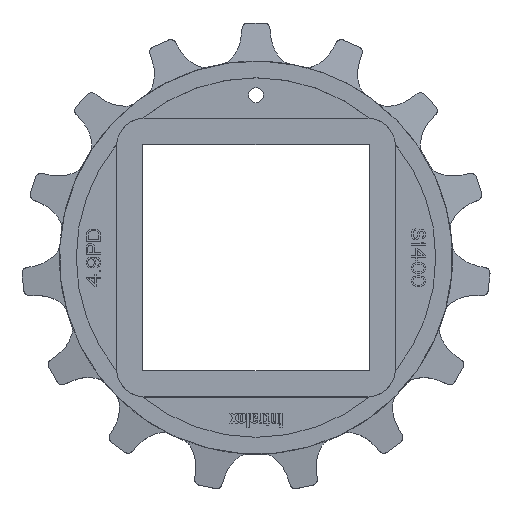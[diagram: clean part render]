
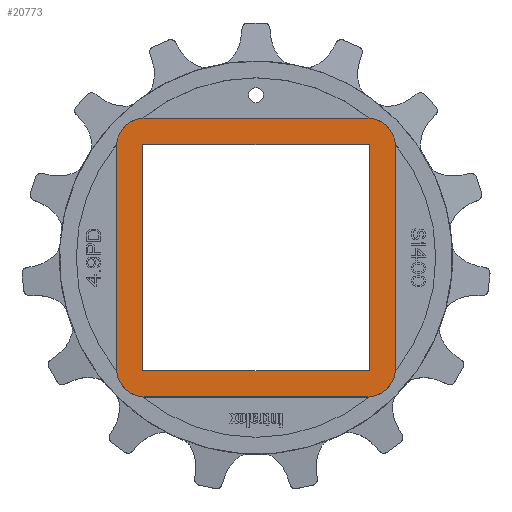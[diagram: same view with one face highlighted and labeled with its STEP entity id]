
A CAD part, top view. The second image highlights one B-rep face of the part: STEP entity #20773.
In plain terms, the highlighted planar face has unit normal (0, 0, 1).
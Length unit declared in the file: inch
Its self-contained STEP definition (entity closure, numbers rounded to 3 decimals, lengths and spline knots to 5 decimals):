
#7777=CARTESIAN_POINT('',(-1.155,1.155,0.75));
#7778=DIRECTION('',(0.,0.,1.));
#7779=DIRECTION('',(0.,1.,0.));
#7780=AXIS2_PLACEMENT_3D('',#7777,#7778,#7779);
#7782=DIRECTION('',(-1.,0.,0.));
#7783=VECTOR('',#7782,2.31);
#7784=CARTESIAN_POINT('',(1.155,1.455,0.75));
#7785=LINE('',#7784,#7783);
#7786=CARTESIAN_POINT('',(1.155,1.155,0.75));
#7787=DIRECTION('',(0.,0.,1.));
#7788=DIRECTION('',(1.,0.,0.));
#7789=AXIS2_PLACEMENT_3D('',#7786,#7787,#7788);
#7791=DIRECTION('',(0.,1.,0.));
#7792=VECTOR('',#7791,2.31);
#7793=CARTESIAN_POINT('',(1.455,-1.155,0.75));
#7794=LINE('',#7793,#7792);
#7795=CARTESIAN_POINT('',(1.155,-1.155,0.75));
#7796=DIRECTION('',(0.,0.,1.));
#7797=DIRECTION('',(0.,-1.,0.));
#7798=AXIS2_PLACEMENT_3D('',#7795,#7796,#7797);
#7800=DIRECTION('',(1.,0.,0.));
#7801=VECTOR('',#7800,2.31);
#7802=CARTESIAN_POINT('',(-1.155,-1.455,0.75));
#7803=LINE('',#7802,#7801);
#7804=CARTESIAN_POINT('',(-1.155,-1.155,0.75));
#7805=DIRECTION('',(0.,0.,1.));
#7806=DIRECTION('',(-1.,0.,0.));
#7807=AXIS2_PLACEMENT_3D('',#7804,#7805,#7806);
#7809=DIRECTION('',(0.,-1.,0.));
#7810=VECTOR('',#7809,2.31);
#7811=CARTESIAN_POINT('',(-1.455,1.155,0.75));
#7812=LINE('',#7811,#7810);
#7813=DIRECTION('',(0.,-1.,0.));
#7814=VECTOR('',#7813,2.362);
#7815=CARTESIAN_POINT('',(-1.181,1.181,0.75));
#7816=LINE('',#7815,#7814);
#7817=DIRECTION('',(1.,0.,0.));
#7818=VECTOR('',#7817,2.362);
#7819=CARTESIAN_POINT('',(-1.181,-1.181,0.75));
#7820=LINE('',#7819,#7818);
#7821=DIRECTION('',(0.,1.,0.));
#7822=VECTOR('',#7821,2.362);
#7823=CARTESIAN_POINT('',(1.181,-1.181,0.75));
#7824=LINE('',#7823,#7822);
#7825=DIRECTION('',(-1.,0.,0.));
#7826=VECTOR('',#7825,2.362);
#7827=CARTESIAN_POINT('',(1.181,1.181,0.75));
#7828=LINE('',#7827,#7826);
#7861=CARTESIAN_POINT('',(-1.155,1.455,0.75));
#7862=CARTESIAN_POINT('',(-1.455,1.155,0.75));
#7863=VERTEX_POINT('',#7861);
#7864=VERTEX_POINT('',#7862);
#7865=CARTESIAN_POINT('',(-1.455,-1.155,0.75));
#7866=VERTEX_POINT('',#7865);
#7867=CARTESIAN_POINT('',(-1.155,-1.455,0.75));
#7868=VERTEX_POINT('',#7867);
#7869=CARTESIAN_POINT('',(1.155,-1.455,0.75));
#7870=VERTEX_POINT('',#7869);
#7871=CARTESIAN_POINT('',(1.455,-1.155,0.75));
#7872=VERTEX_POINT('',#7871);
#7873=CARTESIAN_POINT('',(1.455,1.155,0.75));
#7874=VERTEX_POINT('',#7873);
#7875=CARTESIAN_POINT('',(1.155,1.455,0.75));
#7876=VERTEX_POINT('',#7875);
#10195=CARTESIAN_POINT('',(-1.181,1.181,0.75));
#10196=CARTESIAN_POINT('',(-1.181,-1.181,0.75));
#10197=VERTEX_POINT('',#10195);
#10198=VERTEX_POINT('',#10196);
#10199=CARTESIAN_POINT('',(1.181,-1.181,0.75));
#10200=VERTEX_POINT('',#10199);
#10201=CARTESIAN_POINT('',(1.181,1.181,0.75));
#10202=VERTEX_POINT('',#10201);
#20748=CARTESIAN_POINT('',(0.,0.,0.75));
#20749=DIRECTION('',(0.,0.,1.));
#20750=DIRECTION('',(1.,0.,0.));
#20751=AXIS2_PLACEMENT_3D('',#20748,#20749,#20750);
#20752=PLANE('',#20751);
#20753=ORIENTED_EDGE('',*,*,#13021,.F.);
#20754=ORIENTED_EDGE('',*,*,#13126,.F.);
#20755=ORIENTED_EDGE('',*,*,#13367,.F.);
#20756=ORIENTED_EDGE('',*,*,#13400,.F.);
#20757=ORIENTED_EDGE('',*,*,#13432,.F.);
#20758=ORIENTED_EDGE('',*,*,#13463,.F.);
#20759=ORIENTED_EDGE('',*,*,#13219,.F.);
#20760=ORIENTED_EDGE('',*,*,#13185,.F.);
#20761=EDGE_LOOP('',(#20753,#20754,#20755,#20756,#20757,#20758,#20759,#20760));
#20762=FACE_OUTER_BOUND('',#20761,.F.);
#20764=ORIENTED_EDGE('',*,*,#20763,.T.);
#20766=ORIENTED_EDGE('',*,*,#20765,.T.);
#20768=ORIENTED_EDGE('',*,*,#20767,.T.);
#20770=ORIENTED_EDGE('',*,*,#20769,.T.);
#20771=EDGE_LOOP('',(#20764,#20766,#20768,#20770));
#20772=FACE_BOUND('',#20771,.F.);
#20773=ADVANCED_FACE('',(#20762,#20772),#20752,.T.);
#7781=CIRCLE('',#7780,0.3);
#7790=CIRCLE('',#7789,0.3);
#7799=CIRCLE('',#7798,0.3);
#7808=CIRCLE('',#7807,0.3);
#13021=EDGE_CURVE('',#7863,#7864,#7781,.T.);
#13126=EDGE_CURVE('',#7876,#7863,#7785,.T.);
#13185=EDGE_CURVE('',#7864,#7866,#7812,.T.);
#13219=EDGE_CURVE('',#7866,#7868,#7808,.T.);
#13367=EDGE_CURVE('',#7874,#7876,#7790,.T.);
#13400=EDGE_CURVE('',#7872,#7874,#7794,.T.);
#13432=EDGE_CURVE('',#7870,#7872,#7799,.T.);
#13463=EDGE_CURVE('',#7868,#7870,#7803,.T.);
#20763=EDGE_CURVE('',#10197,#10198,#7816,.T.);
#20765=EDGE_CURVE('',#10198,#10200,#7820,.T.);
#20767=EDGE_CURVE('',#10200,#10202,#7824,.T.);
#20769=EDGE_CURVE('',#10202,#10197,#7828,.T.);
